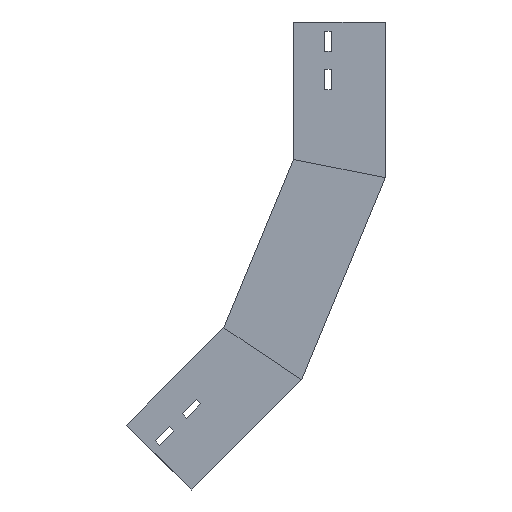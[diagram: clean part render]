
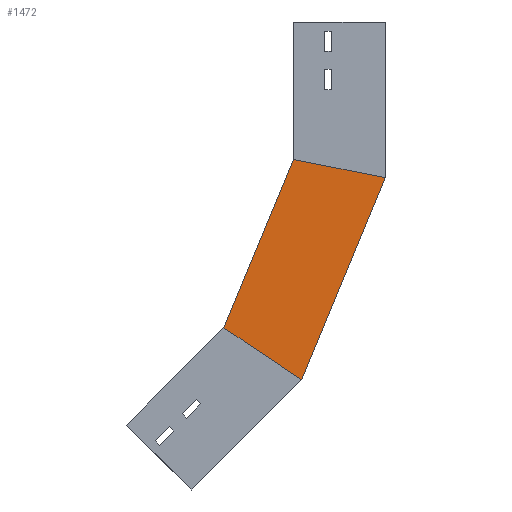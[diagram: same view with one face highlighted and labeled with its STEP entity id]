
A CAD part, left-side view. The second image highlights one B-rep face of the part: STEP entity #1472.
In plain terms, the highlighted planar face has unit normal (-1, 0, 0) as drawn and (1, 0, 0) by its records, which use the part's own axes.
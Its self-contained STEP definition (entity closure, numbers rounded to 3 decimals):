
#90 = PLANE ( 'NONE',  #957 ) ;
#94 = CARTESIAN_POINT ( 'NONE',  ( 0., 129.74, -363.769 ) ) ;
#195 = VERTEX_POINT ( 'NONE', #844 ) ;
#231 = EDGE_CURVE ( 'NONE', #510, #195, #1112, .T. ) ;
#242 = VECTOR ( 'NONE', #1064, 1000. ) ;
#337 = DIRECTION ( 'NONE',  ( 0., 0.383, -0.924 ) ) ;
#398 = CARTESIAN_POINT ( 'NONE',  ( 0., 92.388, -131.332 ) ) ;
#419 = DIRECTION ( 'NONE',  ( 0., -0.981, -0.195 ) ) ;
#420 = EDGE_CURVE ( 'NONE', #741, #495, #1448, .T. ) ;
#423 = FACE_OUTER_BOUND ( 'NONE', #732, .T. ) ;
#428 = CARTESIAN_POINT ( 'NONE',  ( 0., 32.452, -163.145 ) ) ;
#460 = EDGE_CURVE ( 'NONE', #495, #195, #1154, .T. ) ;
#489 = ORIENTED_EDGE ( 'NONE', *, *, #460, .T. ) ;
#495 = VERTEX_POINT ( 'NONE', #1481 ) ;
#510 = VERTEX_POINT ( 'NONE', #570 ) ;
#570 = CARTESIAN_POINT ( 'NONE',  ( 0., 175.893, -332.93 ) ) ;
#655 = VECTOR ( 'NONE', #337, 1000. ) ;
#675 = DIRECTION ( 'NONE',  ( 0., -0.831, -0.556 ) ) ;
#732 = EDGE_LOOP ( 'NONE', ( #1074, #943, #489, #1447 ) ) ;
#741 = VERTEX_POINT ( 'NONE', #1279 ) ;
#759 = LINE ( 'NONE', #398, #242 ) ;
#809 = VECTOR ( 'NONE', #675, 1000. ) ;
#844 = CARTESIAN_POINT ( 'NONE',  ( 0., 91.117, -389.576 ) ) ;
#883 = DIRECTION ( 'NONE',  ( 0., 0., 1. ) ) ;
#943 = ORIENTED_EDGE ( 'NONE', *, *, #420, .T. ) ;
#957 = AXIS2_PLACEMENT_3D ( 'NONE', #1459, #1188, #883 ) ;
#1028 = CARTESIAN_POINT ( 'NONE',  ( 0., 0., -169.6 ) ) ;
#1064 = DIRECTION ( 'NONE',  ( 0., 0.383, -0.924 ) ) ;
#1074 = ORIENTED_EDGE ( 'NONE', *, *, #1121, .F. ) ;
#1112 = LINE ( 'NONE', #94, #809 ) ;
#1121 = EDGE_CURVE ( 'NONE', #741, #510, #759, .T. ) ;
#1154 = LINE ( 'NONE', #1028, #655 ) ;
#1188 = DIRECTION ( 'NONE',  ( -1., 0., 0. ) ) ;
#1279 = CARTESIAN_POINT ( 'NONE',  ( 0., 100., -149.709 ) ) ;
#1390 = VECTOR ( 'NONE', #419, 1000. ) ;
#1447 = ORIENTED_EDGE ( 'NONE', *, *, #231, .F. ) ;
#1448 = LINE ( 'NONE', #428, #1390 ) ;
#1459 = CARTESIAN_POINT ( 'NONE',  ( 0., 0., -169.6 ) ) ;
#1472 = ADVANCED_FACE ( 'NONE', ( #423 ), #90, .F. ) ;
#1481 = CARTESIAN_POINT ( 'NONE',  ( 0., 0., -169.6 ) ) ;
